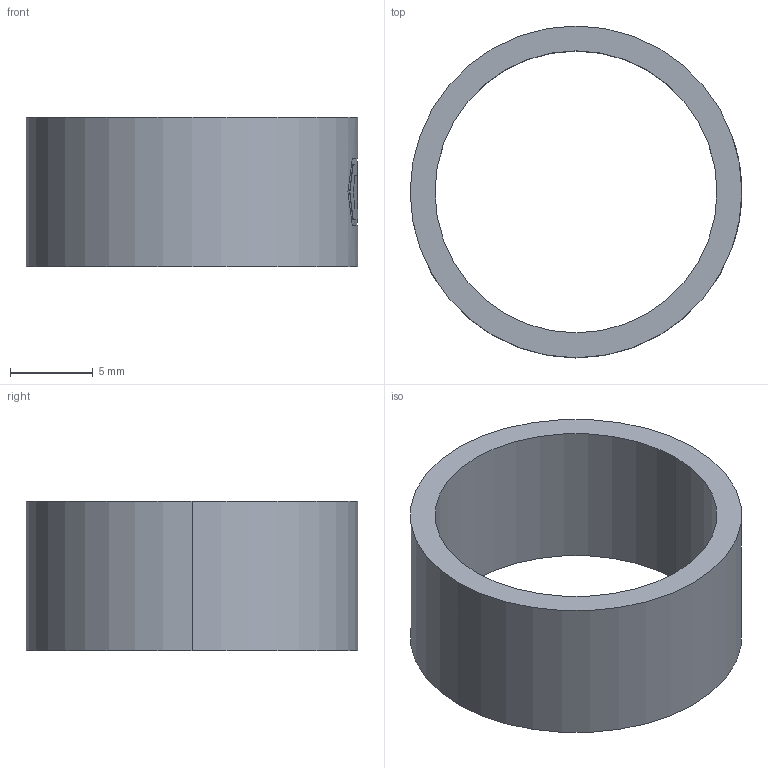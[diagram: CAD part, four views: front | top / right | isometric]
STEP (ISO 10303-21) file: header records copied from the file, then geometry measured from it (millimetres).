
FILE_DESCRIPTION (( 'STEP AP203' ), '1' );
FILE_NAME ('WJ-DM 25.STEP', '2007-02-21T09:01:21', ( ' ' ), ( '' ), 'SwSTEP 2.0', 'SolidWorks 2005278', '' );
FILE_SCHEMA (( 'CONFIG_CONTROL_DESIGN' ));
Length unit declared in the file: millimetre
Products named in the file (1): WJ-DM 25
Bounding box: 20 x 20 x 9 mm (x, y, z)
Volume: 784.3 mm3; surface area: 1221.7 mm2
Topology: 1 solids, 1 shells, 43 faces, 117 edges, 78 vertices
Faces by surface type: plane 36, cylinder 7
Entity records: 1468 total; most frequent: CARTESIAN_POINT 299, ORIENTED_EDGE 234, DIRECTION 221, EDGE_CURVE 117, AXIS2_PLACEMENT_3D 80, VERTEX_POINT 78, LINE 61, VECTOR 61
